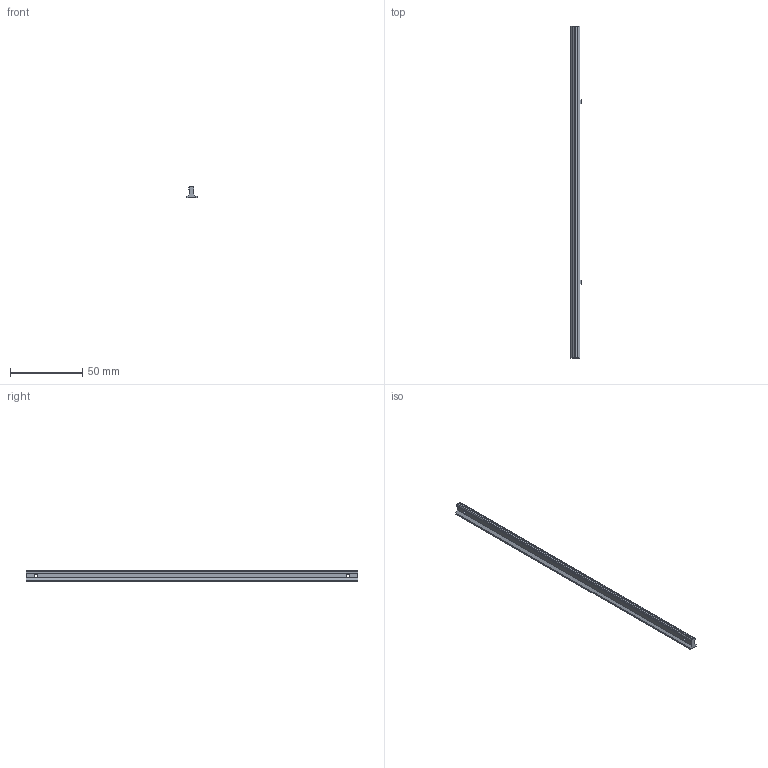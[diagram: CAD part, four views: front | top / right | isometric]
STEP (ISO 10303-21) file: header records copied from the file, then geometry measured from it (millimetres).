
FILE_DESCRIPTION(/* description */ ('Unknown'),/* implementation_level */ '2;1');
FILE_NAME(/* name */ 'vhubbard-display-track-O27',/* time_stamp */ '2024-10-03T23:03:33-05:00',/* author */ ('Unknown'),/* organization */ ('Unknown'),/* preprocessor_version */ 'ST-DEVELOPER v18.102',/* originating_system */ 'Solid Edge',/* authorisation */ 'Unknown');
FILE_SCHEMA (('AUTOMOTIVE_DESIGN {1 0 10303 214 3 1 1}'));
Length unit declared in the file: millimetre
Products named in the file (1): vhubbard-display-track-O27
Bounding box: 7 x 230 x 8 mm (x, y, z)
Volume: 6528 mm3; surface area: 6073.1 mm2
Topology: 1 solids, 1 shells, 30 faces, 82 edges, 54 vertices
Faces by surface type: plane 24, cylinder 6
Full cylindrical faces by diameter (mm): 2.4 x2
Entity records: 970 total; most frequent: CARTESIAN_POINT 165, ORIENTED_EDGE 160, DIRECTION 154, EDGE_CURVE 80, LINE 68, VECTOR 68, VERTEX_POINT 54, AXIS2_PLACEMENT_3D 43
